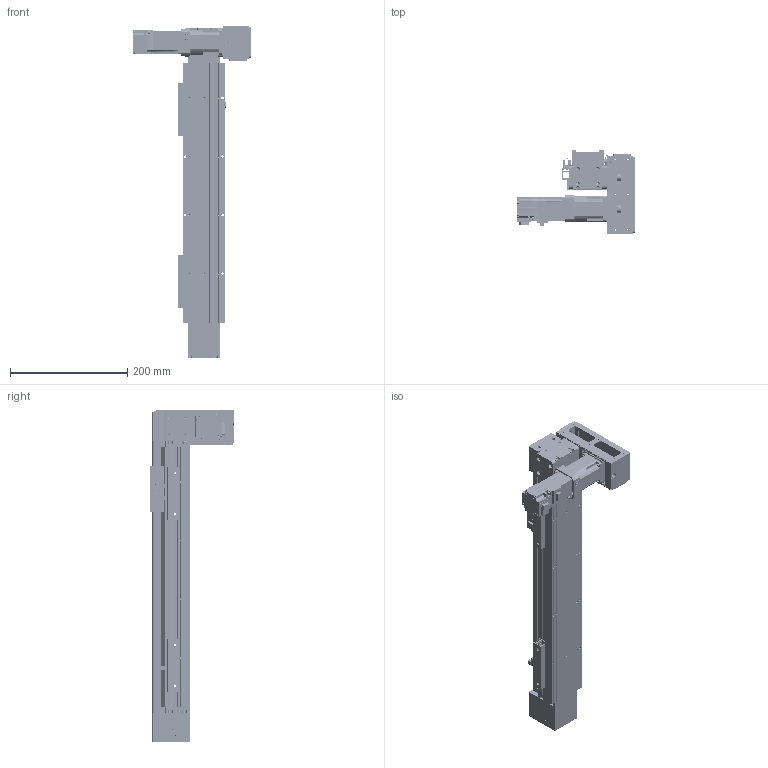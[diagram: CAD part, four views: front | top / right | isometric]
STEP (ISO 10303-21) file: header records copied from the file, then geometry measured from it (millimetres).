
FILE_DESCRIPTION(/* description */ (''),/* implementation_level */ '2;1');
FILE_NAME(/* name */ '\\192.168.0.160\disk1\HAN SHIN Master\B-설계부문\C-표준\B-2024년\BC02-표준도면\+로봇 개선표준도면\홈페이지 표준 도면\홈페이지 최종 작업 폴더\3D\HSB\HSB55\HSB55-DR1G-N-0300-L.stp',/* time_stamp */ '2025-06-19T20:37:04+09:00',/* author */ ('user'),/* organization */ (''),/* preprocessor_version */ 'ST-DEVELOPER v18.1',/* originating_system */ 'Autodesk Inventor 2022',/* authorisation */ '');
FILE_SCHEMA (('AUTOMOTIVE_DESIGN { 1 0 10303 214 3 1 1 }'));
Products named in the file (42): HSB55-DR1G-N-0500-L; HSB55 BASE; HSB55 TABLE; UPCOVER; HSB55 HOUSING (Connecting); HSB55 FRONT HOUSIONG; HSB55 REAR SHAFT-1; HSB55 REAR SHAFT; HSB55 DOWN CLAMP; M4-25(렌치볼트); HSB55 HOUSING-R1; HSB55 TENSION PLATE; ISO 4032 - M4; HSB55 UP CLAMP; M4-12(렌치볼트); SIDE COVER_대칭도; SIDE COVER; HR45 STOPPER; HSB55 ACRYL COVER-R1; HSB55 ACRYL COVER; HSB160 BEARING OVER; HSB55 END COVER; HSB160 SHAFT-1; EC-6202ZZ; EC-6202ZZ Inner ring; EC-6202ZZ Outer ring; EC-6202ZZ St; EC-6202ZZ Ball; EC-6202ZZ B1; HR45 SENSOR DOG; hsr_ftht_A-M6F_grease_nipple_joint; NIPPLE CAP(신규); HR45 SENSOR RAIL; EE_SX674A; PGX44-H-1_3; hg-kr13_; MOTOR PLATE-100W(MITSUBISHI); HSB55 D BELT COVER; HR65-BELT COVER-COVER; HR65-BELT COVER-COVER3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
Assembly tree (64 placements, depth 3):
  HSB55-DR1G-N-0500-L
    HSB55 BASE
    HSB55 TABLE
    UPCOVER
    HSB55 FRONT HOUSIONG  x2
    HSB55 HOUSING (Connecting)
    HSB55 REAR SHAFT-1
    #125051  x2
    HSB55 REAR SHAFT
    HSB55 DOWN CLAMP  x2
    HSB55 UP CLAMP  x2
    M4-25(렌치볼트)
    ISO 4032 - M4  x2
    HSB55 HOUSING-R1
    HSB55 TENSION PLATE  x2
    M4-12(렌치볼트)
    SIDE COVER_대칭도
    SIDE COVER
    HR45 STOPPER  x2
    HSB55 ACRYL COVER  x4
    HSB55 ACRYL COVER-R1
    HSB160 BEARING OVER
    HSB55 END COVER
    HSB160 SHAFT-1
    EC-6202ZZ  x2
      EC-6202ZZ Inner ring
      EC-6202ZZ Outer ring
      EC-6202ZZ B1
      EC-6202ZZ St
      EC-6202ZZ Ball
    HR45 SENSOR DOG
    EE_SX674A  x3
    HR45 SENSOR RAIL  x2
    hsr_ftht_A-M6F_grease_nipple_joint
    NIPPLE CAP(신규)
    PGX44-H-1_3
    hg-kr13_
    MOTOR PLATE-100W(MITSUBISHI)
    HSB55 D BELT COVER
    HR65-BELT COVER-COVER
    HR65-BELT COVER-COVER3
    HSB55 D MOTOR PLATE
    HR65-BELT COVER-COVER2
Bounding box: 201.4 x 142.7 x 567 mm (x, y, z)
Volume: 1377663.1 mm3; surface area: 642641.7 mm2
Topology: 90 solids, 90 shells, 5036 faces, 13704 edges, 8990 vertices
Faces by surface type: plane 3509, cylinder 1176, cone 272, torus 35, sphere 22, bspline 22
Full cylindrical faces by diameter (mm): 1 x2, 2 x3, 2.013 x4, 2.459 x102, 2.5 x5, 3 x3, 3.242 x64, 3.3 x9, 3.4 x16, 3.5 x75, 4 x12, 4.134 x8, 4.2 x4, 4.5 x45, 4.917 x2, 5 x8, 5.5 x1, 5.6 x3, 5.9 x2, 6 x46, 6.5 x4, 7 x6, 7.5 x4, 8 x12, 8.2 x1, 9 x2, 9.5 x2, 10 x1, 11.5 x2, 12 x6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
Entity records: 125009 total; most frequent: CARTESIAN_POINT 25252, ORIENTED_EDGE 20388, DIRECTION 20009, EDGE_CURVE 10194, LINE 7413, VECTOR 7413, VERTEX_POINT 6724, AXIS2_PLACEMENT_3D 6298
